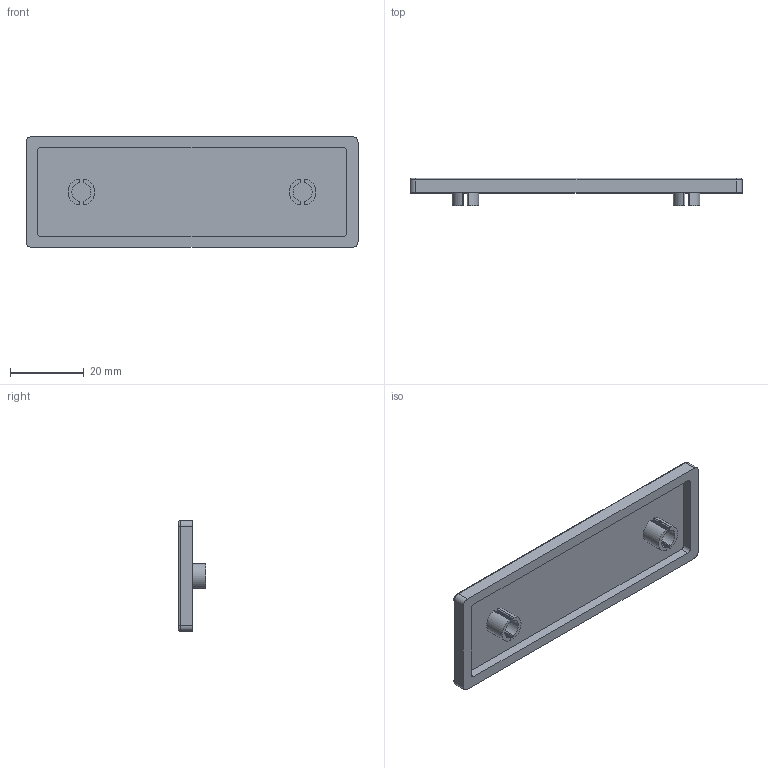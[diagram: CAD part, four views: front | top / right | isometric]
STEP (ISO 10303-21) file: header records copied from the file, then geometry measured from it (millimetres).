
FILE_DESCRIPTION (( 'STEP AP214' ), '1' );
FILE_NAME ('4077.STEP', '2019-01-17T09:49:03', ( '' ), ( '' ), 'SwSTEP 2.0', 'SolidWorks 2014', '' );
FILE_SCHEMA (( 'AUTOMOTIVE_DESIGN' ));
Length unit declared in the file: millimetre
Products named in the file (2): 4077
Bounding box: 90 x 7.5 x 30 mm (x, y, z)
Volume: 5949.4 mm3; surface area: 7285.4 mm2
Topology: 1 solids, 1 shells, 67 faces, 172 edges, 112 vertices
Faces by surface type: cylinder 40, plane 23, torus 4
Entity records: 2115 total; most frequent: DIRECTION 394, CARTESIAN_POINT 353, ORIENTED_EDGE 344, EDGE_CURVE 172, AXIS2_PLACEMENT_3D 153, VERTEX_POINT 112, LINE 88, VECTOR 88
